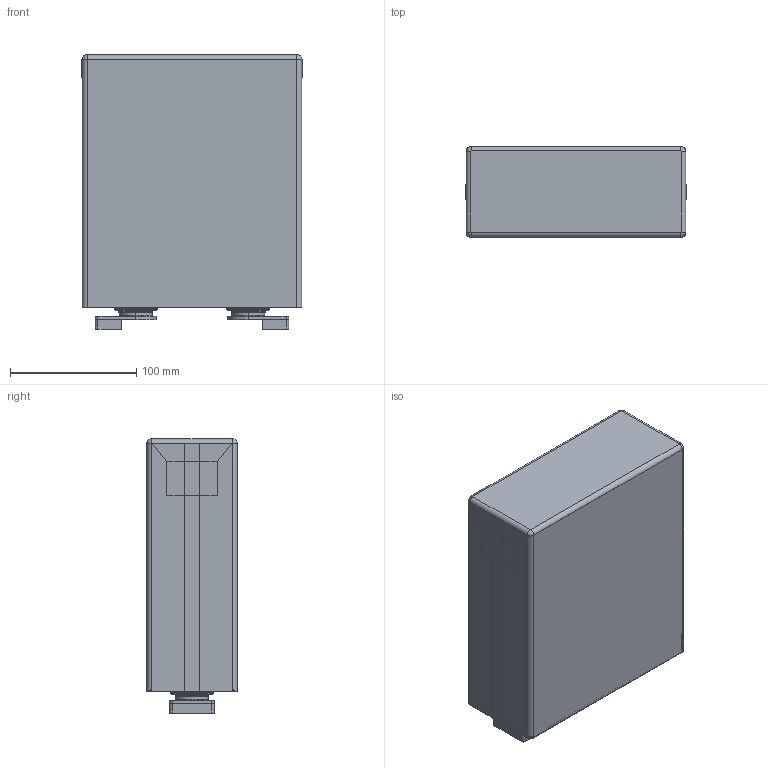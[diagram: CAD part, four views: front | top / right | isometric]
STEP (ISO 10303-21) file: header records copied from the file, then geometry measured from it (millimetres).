
FILE_DESCRIPTION((''),'2;1');
FILE_NAME('240AH_ASM','2019-11-22T',('Eco Power'),(''),'PRO/ENGINEER BY PARAMETRIC TECHNOLOGY CORPORATION, 2013050','PRO/ENGINEER BY PARAMETRIC TECHNOLOGY CORPORATION, 2013050','');
FILE_SCHEMA(('CONFIG_CONTROL_DESIGN'));
Length unit declared in the file: millimetre
Products named in the file (13): 240AH-CELL-M4-20170212_1_1; ASM0053_ASM_1_ASM_1_ASM; PRT0787_1; PRT0788_1; ASM0286_ASM_1_ASM; ASM0285_ASM_1_ASM; PRT0789_1; PRT0790_1; ASM0289_ASM_1_ASM; ASM0288_ASM_1_ASM; ASM0287_ASM_1_ASM; 240AH_ASM_1_ASM; 240AH_ASM
Assembly tree (12 placements, depth 6):
  240AH_ASM
    240AH_ASM_1_ASM
      ASM0053_ASM_1_ASM_1_ASM
        240AH-CELL-M4-20170212_1_1
      ASM0285_ASM_1_ASM
        ASM0286_ASM_1_ASM
          PRT0787_1
          PRT0788_1
      ASM0287_ASM_1_ASM
        ASM0288_ASM_1_ASM
          ASM0289_ASM_1_ASM
            PRT0789_1
            PRT0790_1
Bounding box: 174.6 x 71.6 x 217.1 mm (x, y, z)
Volume: 149142.3 mm3; surface area: 273675 mm2
Topology: 5 solids, 6 shells, 645 faces, 1572 edges, 968 vertices
Faces by surface type: plane 263, cylinder 242, torus 80, cone 40, bspline 20
Entity records: 21854 total; most frequent: CARTESIAN_POINT 6104, DIRECTION 3410, ORIENTED_EDGE 3136, EDGE_CURVE 1568, AXIS2_PLACEMENT_3D 1265, VERTEX_POINT 968, VECTOR 880, LINE 880
